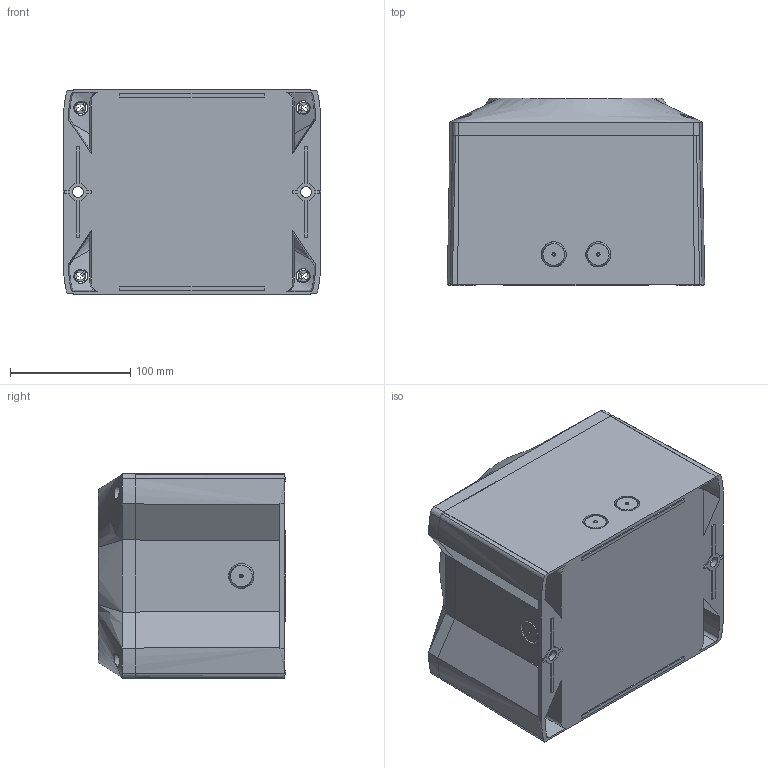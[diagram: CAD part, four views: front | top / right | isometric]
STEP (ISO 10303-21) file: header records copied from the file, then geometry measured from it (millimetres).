
FILE_DESCRIPTION (( 'STEP AP214' ), '1' );
FILE_NAME ('PA10_30305-100.STEP', '2012-01-10T10:18:53', ( ' ' ), ( ' ' ), 'SwSTEP 2.0', 'SolidWorks 2011', '' );
FILE_SCHEMA (( 'AUTOMOTIVE_DESIGN' ));
Length unit declared in the file: millimetre
Products named in the file (1): PA10_30305-100
Bounding box: 214.34 x 156.2 x 170.1 mm (x, y, z)
Surface area: 271954.3 mm2 (no closed solid volume)
Topology: 0 solids, 27 shells, 272 faces, 962 edges, 722 vertices
Faces by surface type: plane 148, cone 69, bspline 28, cylinder 16, torus 9, sphere 2
Entity records: 17299 total; most frequent: CARTESIAN_POINT 6704, DIRECTION 1439, ORIENTED_EDGE 1408, EDGE_CURVE 915, VERTEX_POINT 702, AXIS2_PLACEMENT_3D 481, LINE 477, VECTOR 477
